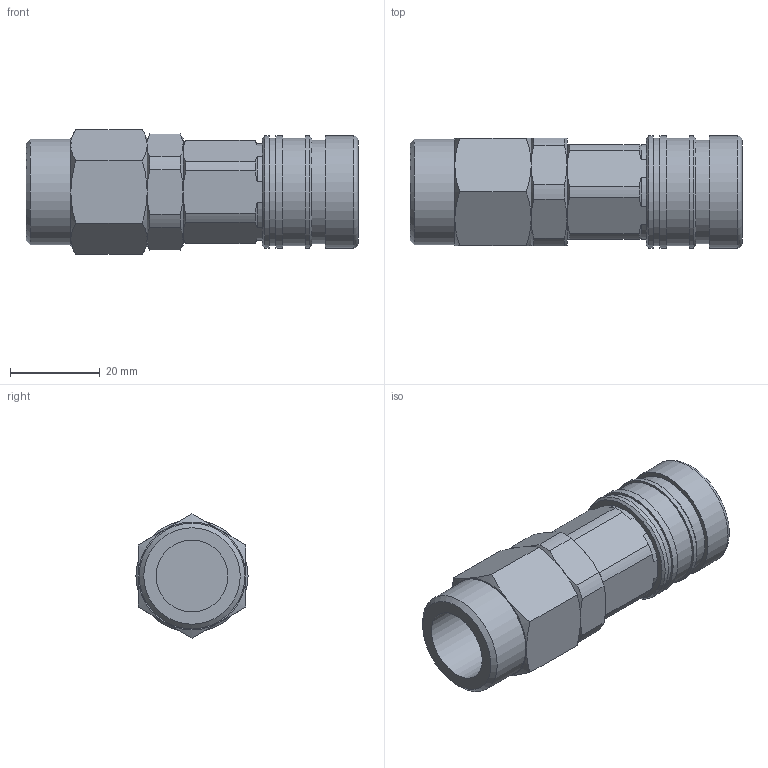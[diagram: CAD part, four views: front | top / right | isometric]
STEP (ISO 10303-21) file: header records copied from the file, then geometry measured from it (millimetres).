
FILE_DESCRIPTION(/* description */ (''),/* implementation_level */ '2;1');
FILE_NAME(/* name */ 'E:\2013年度版　3D-DATA\【17】 CHS-MP COUPLING\[01] CHS-MP COUPLING\[04] CHS-11H-MP.stp',/* time_stamp */ '2013-08-05T15:42:56+09:00',/* author */ ('takahashi-pc2'),/* organization */ (''),/* preprocessor_version */ 'ST-DEVELOPER v15.2',/* originating_system */ 'Autodesk Inventor 2014',/* authorisation */ '');
FILE_SCHEMA (('AUTOMOTIVE_DESIGN { 1 0 10303 214 3 1 1 }'));
Length unit declared in the file: millimetre
Products named in the file (1): [04] CHS-11H-MP
Bounding box: 74 x 25 x 27.71 mm (x, y, z)
Volume: 27541 mm3; surface area: 8711.8 mm2
Topology: 1 solids, 1 shells, 99 faces, 218 edges, 132 vertices
Faces by surface type: cone 39, plane 31, cylinder 28, torus 1
Full cylindrical faces by diameter (mm): 13.3 x1, 16 x1, 23 x1, 23.5 x1, 24 x2, 25 x4
Entity records: 2575 total; most frequent: CARTESIAN_POINT 580, DIRECTION 416, ORIENTED_EDGE 408, EDGE_CURVE 204, AXIS2_PLACEMENT_3D 184, VERTEX_POINT 132, EDGE_LOOP 124, ADVANCED_FACE 99
